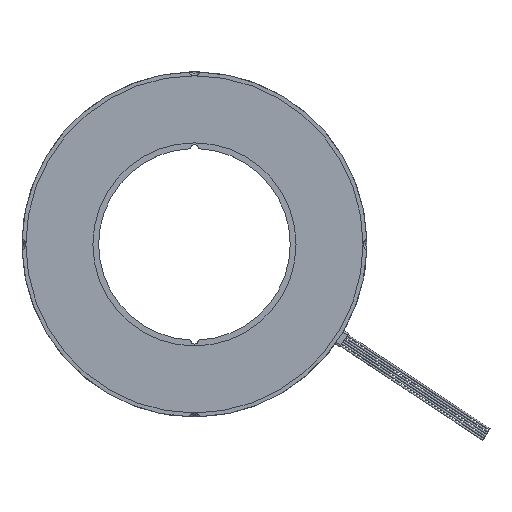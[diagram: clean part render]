
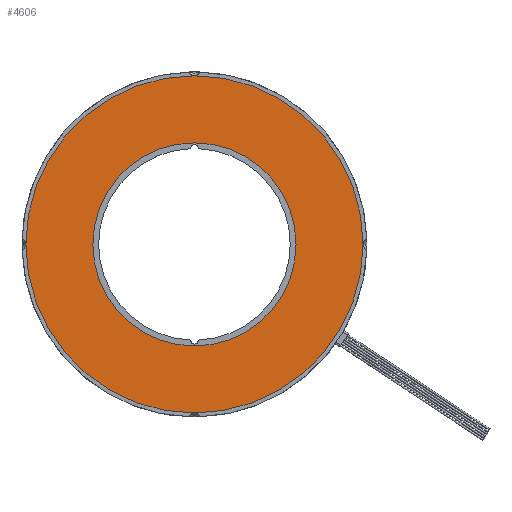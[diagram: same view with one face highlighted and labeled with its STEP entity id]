
A CAD part, top view. The second image highlights one B-rep face of the part: STEP entity #4606.
In plain terms, the highlighted planar face has unit normal (0, 0, 1).
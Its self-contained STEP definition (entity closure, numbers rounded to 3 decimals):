
#454=CIRCLE('',#5098,44.);
#455=CIRCLE('',#5100,26.5);
#1332=ORIENTED_EDGE('',*,*,#2038,.T.);
#1333=ORIENTED_EDGE('',*,*,#2037,.F.);
#2037=EDGE_CURVE('',#2472,#2472,#454,.T.);
#2038=EDGE_CURVE('',#2473,#2473,#455,.T.);
#2472=VERTEX_POINT('',#8061);
#2473=VERTEX_POINT('',#8064);
#3358=EDGE_LOOP('',(#1332));
#3359=EDGE_LOOP('',(#1333));
#3736=FACE_BOUND('',#3358,.T.);
#3737=FACE_BOUND('',#3359,.T.);
#3954=PLANE('',#5099);
#4606=ADVANCED_FACE('',(#3736,#3737),#3954,.T.);
#5098=AXIS2_PLACEMENT_3D('',#8060,#6168,#6169);
#5099=AXIS2_PLACEMENT_3D('',#8062,#6170,#6171);
#5100=AXIS2_PLACEMENT_3D('',#8063,#6172,#6173);
#6168=DIRECTION('',(0.,0.,-1.));
#6169=DIRECTION('',(-1.,0.,0.));
#6170=DIRECTION('',(0.,0.,1.));
#6171=DIRECTION('',(1.,0.,0.));
#6172=DIRECTION('',(0.,0.,-1.));
#6173=DIRECTION('',(-1.,0.,0.));
#8060=CARTESIAN_POINT('',(0.,0.,3.5));
#8061=CARTESIAN_POINT('',(-44.,0.,3.5));
#8062=CARTESIAN_POINT('',(-44.,0.,3.5));
#8063=CARTESIAN_POINT('',(0.,0.,3.5));
#8064=CARTESIAN_POINT('',(-26.5,0.,3.5));
